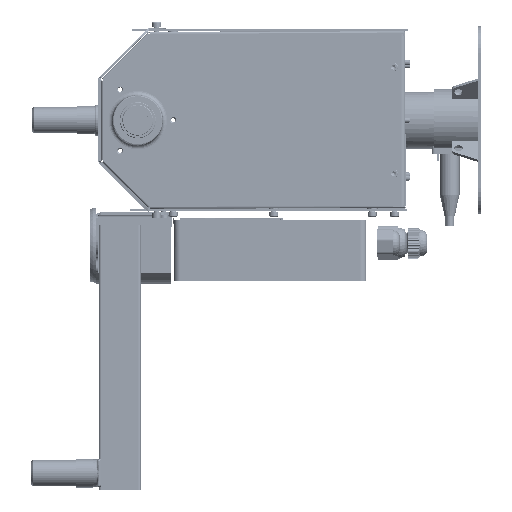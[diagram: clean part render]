
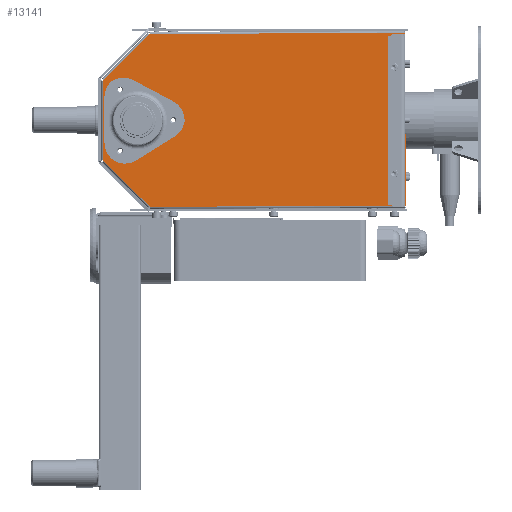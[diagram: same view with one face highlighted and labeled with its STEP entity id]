
A CAD part, left-side view. The second image highlights one B-rep face of the part: STEP entity #13141.
In plain terms, the highlighted planar face has unit normal (-1, 0, 0) as drawn and (0, -1, 0) by its records, which use the part's own axes.
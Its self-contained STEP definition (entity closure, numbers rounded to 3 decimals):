
#13141=ADVANCED_FACE('',(#35935,#35937,#35939,#35941,#35943,#35945,#35947),#35949,
.F.);
#35935=FACE_BOUND('',#35936,.T.);
#35936=EDGE_LOOP('',(#55471,#55472,#55473,#55474,#55475,#55476,#55477,#55478,#55479,
#55480));
#35937=FACE_BOUND('',#35938,.T.);
#35938=EDGE_LOOP('',(#55481));
#35939=FACE_BOUND('',#35940,.T.);
#35940=EDGE_LOOP('',(#55482));
#35941=FACE_BOUND('',#35942,.T.);
#35942=EDGE_LOOP('',(#55483));
#35943=FACE_BOUND('',#35944,.T.);
#35944=EDGE_LOOP('',(#55484));
#35945=FACE_BOUND('',#35946,.T.);
#35946=EDGE_LOOP('',(#55485));
#35947=FACE_BOUND('',#35948,.T.);
#35948=EDGE_LOOP('',(#55486));
#35949=PLANE('',#35950);
#35950=AXIS2_PLACEMENT_3D('',#35951,#35952,#35953);
#35951=CARTESIAN_POINT('',(0.,0.,0.));
#35952=DIRECTION('',(0.,1.,0.));
#35953=DIRECTION('',(-1.,0.,0.));
#55471=ORIENTED_EDGE('',*,*,#62243,.F.);
#55472=ORIENTED_EDGE('',*,*,#62244,.T.);
#55473=ORIENTED_EDGE('',*,*,#62245,.T.);
#55474=ORIENTED_EDGE('',*,*,#62246,.T.);
#55475=ORIENTED_EDGE('',*,*,#62247,.T.);
#55476=ORIENTED_EDGE('',*,*,#62237,.T.);
#55477=ORIENTED_EDGE('',*,*,#62248,.F.);
#55478=ORIENTED_EDGE('',*,*,#62249,.F.);
#55479=ORIENTED_EDGE('',*,*,#62250,.F.);
#55480=ORIENTED_EDGE('',*,*,#62251,.F.);
#55481=ORIENTED_EDGE('',*,*,#62252,.T.);
#55482=ORIENTED_EDGE('',*,*,#62253,.T.);
#55483=ORIENTED_EDGE('',*,*,#62254,.T.);
#55484=ORIENTED_EDGE('',*,*,#62255,.T.);
#55485=ORIENTED_EDGE('',*,*,#62256,.T.);
#55486=ORIENTED_EDGE('',*,*,#62257,.T.);
#62237=EDGE_CURVE('',#70718,#70716,#70719,.T.);
#62243=EDGE_CURVE('',#70728,#70729,#70730,.F.);
#62244=EDGE_CURVE('',#70728,#70731,#70732,.T.);
#62245=EDGE_CURVE('',#70731,#70733,#70734,.T.);
#62246=EDGE_CURVE('',#70733,#70735,#70736,.T.);
#62247=EDGE_CURVE('',#70735,#70718,#70737,.T.);
#62248=EDGE_CURVE('',#70738,#70716,#70739,.F.);
#62249=EDGE_CURVE('',#70740,#70738,#70741,.F.);
#62250=EDGE_CURVE('',#70742,#70740,#70743,.T.);
#62251=EDGE_CURVE('',#70729,#70742,#70744,.F.);
#62252=EDGE_CURVE('',#70745,#70745,#70746,.T.);
#62253=EDGE_CURVE('',#70747,#70747,#70748,.T.);
#62254=EDGE_CURVE('',#70749,#70749,#70750,.T.);
#62255=EDGE_CURVE('',#70751,#70751,#70752,.T.);
#62256=EDGE_CURVE('',#70753,#70753,#70754,.T.);
#62257=EDGE_CURVE('',#70755,#70755,#70756,.T.);
#70716=VERTEX_POINT('',#100333);
#70718=VERTEX_POINT('',#100346);
#70719=LINE('',#100347,#100348);
#70728=VERTEX_POINT('',#100457);
#70729=VERTEX_POINT('',#100458);
#70730=CIRCLE('',#100459,1.);
#70731=VERTEX_POINT('',#100463);
#70732=LINE('',#100464,#100465);
#70733=VERTEX_POINT('',#100467);
#70734=LINE('',#100468,#100469);
#70735=VERTEX_POINT('',#100471);
#70736=LINE('',#100472,#100473);
#70737=LINE('',#100475,#100476);
#70738=VERTEX_POINT('',#100478);
#70739=CIRCLE('',#100479,1.);
#70740=VERTEX_POINT('',#100483);
#70741=CIRCLE('',#100484,1.);
#70742=VERTEX_POINT('',#100488);
#70743=LINE('',#100489,#100490);
#70744=CIRCLE('',#100492,1.);
#70745=VERTEX_POINT('',#100496);
#70746=CIRCLE('',#100497,11.);
#70747=VERTEX_POINT('',#100501);
#70748=CIRCLE('',#100502,3.5);
#70749=VERTEX_POINT('',#100506);
#70750=CIRCLE('',#100507,3.5);
#70751=VERTEX_POINT('',#100511);
#70752=CIRCLE('',#100512,3.5);
#70753=VERTEX_POINT('',#100516);
#70754=CIRCLE('',#100517,3.);
#70755=VERTEX_POINT('',#100521);
#70756=CIRCLE('',#100522,3.);
#100333=CARTESIAN_POINT('',(-83.,0.,-257.319));
#100346=CARTESIAN_POINT('',(-83.,0.,-12.254));
#100347=CARTESIAN_POINT('',(-83.,0.,-12.254));
#100348=VECTOR('',#100349,1.);
#100349=DIRECTION('',(0.,0.,-1.));
#100457=CARTESIAN_POINT('',(83.,0.,-257.319));
#100458=CARTESIAN_POINT('',(82.866,0.,-257.5));
#100459=AXIS2_PLACEMENT_3D('',#100460,#100461,#100462);
#100460=CARTESIAN_POINT('',(83.732,0.,-258.));
#100461=DIRECTION('',(0.,1.,0.));
#100462=DIRECTION('',(-0.866,0.,0.5));
#100463=CARTESIAN_POINT('',(83.,0.,-12.254));
#100464=CARTESIAN_POINT('',(83.,0.,-257.319));
#100465=VECTOR('',#100466,1.);
#100466=DIRECTION('',(0.,0.,1.));
#100467=CARTESIAN_POINT('',(38.753,0.,31.993));
#100468=CARTESIAN_POINT('',(83.,0.,-12.254));
#100469=VECTOR('',#100470,1.);
#100470=DIRECTION('',(-0.707,0.,0.707));
#100471=CARTESIAN_POINT('',(-38.753,0.,31.993));
#100472=CARTESIAN_POINT('',(38.753,0.,31.993));
#100473=VECTOR('',#100474,1.);
#100474=DIRECTION('',(-1.,0.,0.));
#100475=CARTESIAN_POINT('',(-38.753,0.,31.993));
#100476=VECTOR('',#100477,1.);
#100477=DIRECTION('',(-0.707,0.,-0.707));
#100478=CARTESIAN_POINT('',(-82.866,0.,-257.5));
#100479=AXIS2_PLACEMENT_3D('',#100480,#100481,#100482);
#100480=CARTESIAN_POINT('',(-83.732,0.,-258.));
#100481=DIRECTION('',(0.,1.,0.));
#100482=DIRECTION('',(0.732,0.,0.681));
#100483=CARTESIAN_POINT('',(-82.,0.,-258.));
#100484=AXIS2_PLACEMENT_3D('',#100485,#100486,#100487);
#100485=CARTESIAN_POINT('',(-82.,0.,-257.));
#100486=DIRECTION('',(0.,-1.,0.));
#100487=DIRECTION('',(-0.866,0.,-0.5));
#100488=CARTESIAN_POINT('',(82.,0.,-258.));
#100489=CARTESIAN_POINT('',(82.,0.,-258.));
#100490=VECTOR('',#100491,1.);
#100491=DIRECTION('',(-1.,0.,0.));
#100492=AXIS2_PLACEMENT_3D('',#100493,#100494,#100495);
#100493=CARTESIAN_POINT('',(82.,0.,-257.));
#100494=DIRECTION('',(0.,-1.,0.));
#100495=DIRECTION('',(0.,0.,-1.));
#100496=CARTESIAN_POINT('',(-11.,0.,-1.));
#100497=AXIS2_PLACEMENT_3D('',#100498,#100499,#100500);
#100498=CARTESIAN_POINT('',(0.,0.,-1.));
#100499=DIRECTION('',(0.,1.,0.));
#100500=DIRECTION('',(-1.,0.,0.));
#100501=CARTESIAN_POINT('',(-3.5,0.,-35.));
#100502=AXIS2_PLACEMENT_3D('',#100503,#100504,#100505);
#100503=CARTESIAN_POINT('',(0.,0.,-35.));
#100504=DIRECTION('',(0.,1.,0.));
#100505=DIRECTION('',(-1.,0.,0.));
#100506=CARTESIAN_POINT('',(25.945,0.,16.));
#100507=AXIS2_PLACEMENT_3D('',#100508,#100509,#100510);
#100508=CARTESIAN_POINT('',(29.445,0.,16.));
#100509=DIRECTION('',(0.,1.,0.));
#100510=DIRECTION('',(-1.,0.,0.));
#100511=CARTESIAN_POINT('',(-32.945,0.,16.));
#100512=AXIS2_PLACEMENT_3D('',#100513,#100514,#100515);
#100513=CARTESIAN_POINT('',(-29.445,0.,16.));
#100514=DIRECTION('',(0.,1.,0.));
#100515=DIRECTION('',(-1.,0.,0.));
#100516=CARTESIAN_POINT('',(48.,0.,-247.5));
#100517=AXIS2_PLACEMENT_3D('',#100518,#100519,#100520);
#100518=CARTESIAN_POINT('',(51.,0.,-247.5));
#100519=DIRECTION('',(0.,1.,0.));
#100520=DIRECTION('',(-1.,0.,0.));
#100521=CARTESIAN_POINT('',(-54.,0.,-247.5));
#100522=AXIS2_PLACEMENT_3D('',#100523,#100524,#100525);
#100523=CARTESIAN_POINT('',(-51.,0.,-247.5));
#100524=DIRECTION('',(0.,1.,0.));
#100525=DIRECTION('',(-1.,0.,0.));
